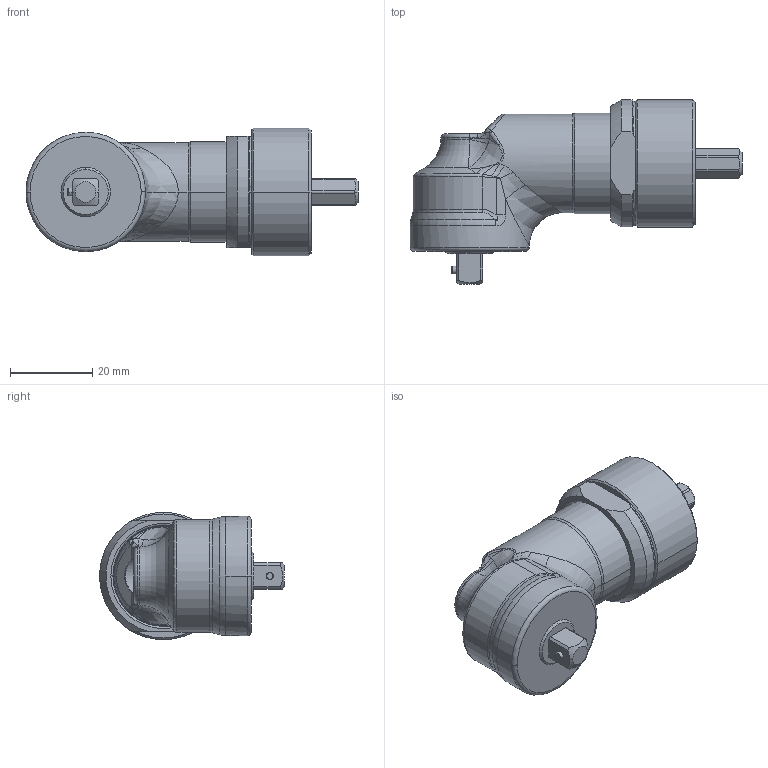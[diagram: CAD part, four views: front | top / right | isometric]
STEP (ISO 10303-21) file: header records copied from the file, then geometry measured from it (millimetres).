
FILE_DESCRIPTION((''),'2;1');
FILE_NAME('3602D97022_SW','2026-07-10T11:43:26',('WKR3KOR'),(''),'CREO PARAMETRIC BY PTC INC, 2025123','CREO PARAMETRIC BY PTC INC, 2025123','');
FILE_SCHEMA(('AP242_MANAGED_MODEL_BASED_3D_ENGINEERING_MIM_LF { 1 0 10303 442 1 1 4 }'));
Length unit declared in the file: millimetre
Products named in the file (1): 3602D97022_SW
Bounding box: 80.7 x 44.9 x 31 mm (x, y, z)
Volume: 34880.6 mm3; surface area: 12085.8 mm2
Topology: 2 solids, 2 shells, 271 faces, 667 edges, 408 vertices
Faces by surface type: bspline 73, plane 67, cylinder 55, cone 46, torus 30
Entity records: 19860 total; most frequent: CARTESIAN_POINT 9833, ORIENTED_EDGE 1330, DIRECTION 1148, PRESENTATION_STYLE_ASSIGNMENT 930, STYLED_ITEM 669, CURVE_STYLE 665, EDGE_CURVE 665, AXIS2_PLACEMENT_3D 489
